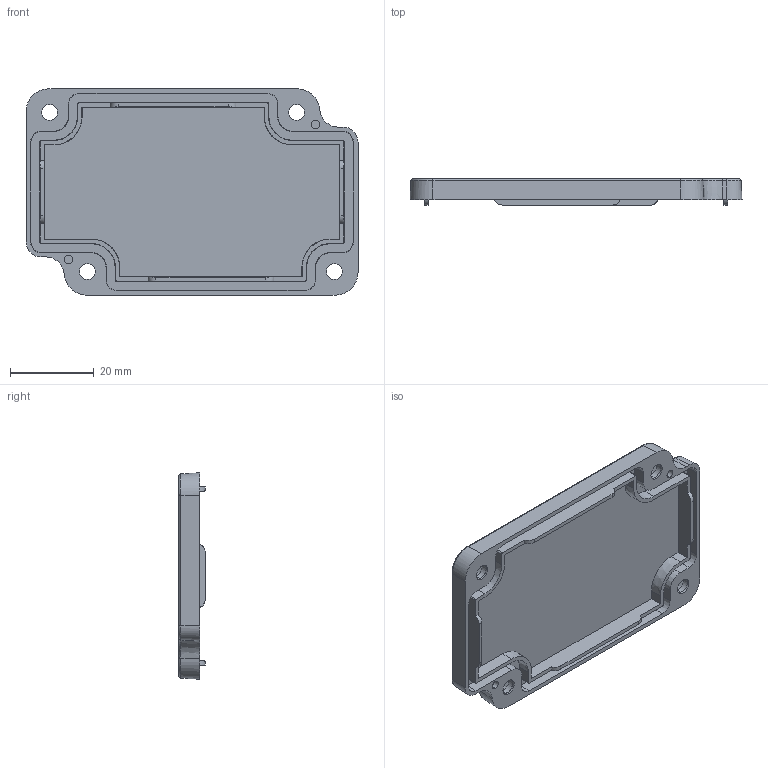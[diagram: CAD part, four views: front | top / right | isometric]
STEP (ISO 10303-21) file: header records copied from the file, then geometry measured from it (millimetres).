
FILE_DESCRIPTION (( 'STEP AP203' ), '1' );
FILE_NAME ('TB-204_cover.STEP', '2018-11-01T05:21:35', ( '' ), ( '' ), 'SwSTEP 2.0', 'SolidWorks 2018', '' );
FILE_SCHEMA (( 'CONFIG_CONTROL_DESIGN' ));
Length unit declared in the file: millimetre
Products named in the file (1): TB-204_cover
Bounding box: 79.3 x 6.3 x 49.3 mm (x, y, z)
Volume: 9105.6 mm3; surface area: 11050.9 mm2
Topology: 1 solids, 1 shells, 150 faces, 394 edges, 258 vertices
Faces by surface type: plane 64, cone 38, cylinder 34, bspline 12, torus 2
Entity records: 5511 total; most frequent: CARTESIAN_POINT 1709, ORIENTED_EDGE 788, DIRECTION 770, EDGE_CURVE 394, AXIS2_PLACEMENT_3D 271, VERTEX_POINT 258, VECTOR 228, LINE 228
